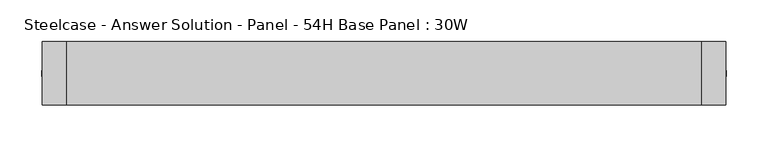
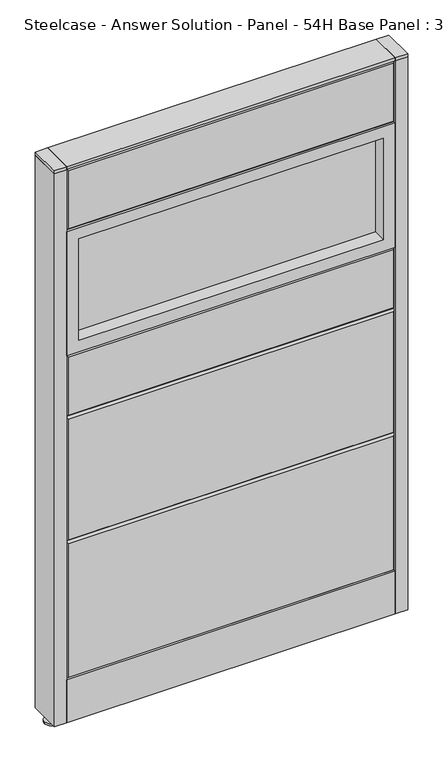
"""IFC4 building model written with IfcOpenShell, lengths in millimetres: furniture geometry, Steelcase - Answer Solution - Panel - 54H Base Panel : 30W."""

from ifc_helpers import new_model, si_unit, point, frame, frame_2d, origin, place, context, project, spatial, polyline, circle_curve, trimmed, segment, composite_curve, outline, extrude, faceted_brep, source, transform, mapped, element, save


def steelcase_answer_solution_panel_54h_base_panel_30w_146243de(model_context):
    return source(origin(), model_context, "Body", "SolidModel", [
        extrude(outline(composite_curve([segment(trimmed(circle_curve(frame_2d((395.224, 0.0320214)), 5.08), [point((400.304, 0.0320214))], [point((390.144, 0.0320214))], False, "CARTESIAN"), True, "CONTINUOUS"), segment(trimmed(circle_curve(frame_2d((395.224, 0.0320214)), 5.08), [point((390.144, 0.0320214))], [point((400.304, 0.0320214))], False, "CARTESIAN"), True, "CONTINUOUS")], self_intersect=False)), frame((0.0, 0.0, 5.0799671), z_axis=(0.0, 0.0, 1.0), x_axis=(1.0, 0.0, 0.0)), (0.0, 0.0, 1.0), 10.414),
        extrude(outline(composite_curve([segment(trimmed(circle_curve(frame_2d((395.224, 0.0320214)), 15.24), [point((410.464, 0.0320214))], [point((379.984, 0.0320214))], False, "CARTESIAN"), True, "CONTINUOUS"), segment(trimmed(circle_curve(frame_2d((395.224, 0.0320214)), 15.24), [point((379.984, 0.0320214))], [point((410.464, 0.0320214))], False, "CARTESIAN"), True, "CONTINUOUS")], self_intersect=False)), frame((0.0, 0.0, -3.29e-05), z_axis=(0.0, 0.0, 1.0), x_axis=(1.0, 0.0, 0.0)), (0.0, 0.0, 1.0), 5.08),
        extrude(outline(polyline([(409.575, 38.1320408), (409.575, -38.0679592), (381.0, -38.0679592), (381.0, 38.1320408), (409.575, 38.1320408)])), frame((0.0, 0.0, 1370.6348), z_axis=(0.0, 0.0, 1.0), x_axis=(1.0, 0.0, 0.0)), (0.0, 0.0, 1.0), 7.3151671),
        extrude(outline(polyline([(409.575, 38.1320408), (409.575, -38.0679592), (381.0, -38.0679592), (381.0, 38.1320408), (409.575, 38.1320408)])), frame((0.0, 0.0, 15.4939671), z_axis=(0.0, 0.0, 1.0), x_axis=(1.0, 0.0, 0.0)), (0.0, 0.0, 1.0), 1355.1408329),
        extrude(outline(composite_curve([segment(trimmed(circle_curve(frame_2d((-395.224, 0.0320214)), 5.08), [point((-400.304, 0.0320214))], [point((-390.144, 0.0320214))], False, "CARTESIAN"), True, "CONTINUOUS"), segment(trimmed(circle_curve(frame_2d((-395.224, 0.0320214)), 5.08), [point((-390.144, 0.0320214))], [point((-400.304, 0.0320214))], False, "CARTESIAN"), True, "CONTINUOUS")], self_intersect=False)), frame((0.0, 0.0, 5.0799671), z_axis=(0.0, 0.0, 1.0), x_axis=(1.0, 0.0, 0.0)), (0.0, 0.0, 1.0), 10.414),
        extrude(outline(composite_curve([segment(trimmed(circle_curve(frame_2d((-395.224, 0.0320214)), 15.24), [point((-410.464, 0.0320214))], [point((-379.984, 0.0320214))], False, "CARTESIAN"), True, "CONTINUOUS"), segment(trimmed(circle_curve(frame_2d((-395.224, 0.0320214)), 15.24), [point((-379.984, 0.0320214))], [point((-410.464, 0.0320214))], False, "CARTESIAN"), True, "CONTINUOUS")], self_intersect=False)), frame((0.0, 0.0, -3.29e-05), z_axis=(0.0, 0.0, 1.0), x_axis=(1.0, 0.0, 0.0)), (0.0, 0.0, 1.0), 5.08),
        extrude(outline(polyline([(-409.575, 38.1320408), (-381.0, 38.1320408), (-381.0, -38.0679592), (-409.575, -38.0679592), (-409.575, 38.1320408)])), frame((0.0, 0.0, 1370.6348), z_axis=(0.0, 0.0, 1.0), x_axis=(1.0, 0.0, 0.0)), (0.0, 0.0, 1.0), 7.3151671),
        extrude(outline(polyline([(-409.575, 38.1320408), (-381.0, 38.1320408), (-381.0, -38.0679592), (-409.575, -38.0679592), (-409.575, 38.1320408)])), frame((0.0, 0.0, 15.4939671), z_axis=(0.0, 0.0, 1.0), x_axis=(1.0, 0.0, 0.0)), (0.0, 0.0, 1.0), 1355.1408329),
        faceted_brep([(-376.174, 38.1635011, 1366.774), (376.174, 38.1635011, 1366.774), (376.174, 38.1635011, 1224.026), (-376.174, 38.1635011, 1224.026), (-381.0, 33.3375011, 1371.6), (-381.0, 33.3375011, 1219.2), (381.0, 33.3375011, 1219.2), (381.0, 33.3375011, 1371.6)], [[[0, 1, 2, 3]], [[4, 5, 6, 7]], [[4, 7, 1, 0]], [[7, 6, 2, 1]], [[6, 5, 3, 2]], [[5, 4, 0, 3]]]),
        extrude(outline(polyline([(-353.06, 6.346049), (353.06, 6.346049), (353.06, -6.353951), (-353.06, -6.353951), (-353.06, 6.346049)])), frame((0.0, 0.0, 942.34), z_axis=(0.0, 0.0, 1.0), x_axis=(1.0, 0.0, 0.0)), (0.0, 0.0, 1.0), 248.92),
        extrude(outline(polyline([(1219.2, -381.0), (914.4, -381.0), (914.4, 381.0), (1219.2, 381.0), (1219.2, -381.0)]), holes=[polyline([(1191.26, -353.06), (1191.26, 353.06), (942.34, 353.06), (942.34, -353.06), (1191.26, -353.06)])]), frame((0.0, -38.103951, 0.0), z_axis=(0.0, 1.0, 0.0), x_axis=(0.0, 0.0, 1.0)), (0.0, 0.0, 1.0), 76.2),
        faceted_brep([(-376.174, 38.1635011, 909.574), (376.174, 38.1635011, 909.574), (376.174, 38.1635011, 766.826), (-376.174, 38.1635011, 766.826), (-381.0, 33.3375011, 914.4), (-381.0, 33.3375011, 762.0), (381.0, 33.3375011, 762.0), (381.0, 33.3375011, 914.4)], [[[0, 1, 2, 3]], [[4, 5, 6, 7]], [[4, 7, 1, 0]], [[7, 6, 2, 1]], [[6, 5, 3, 2]], [[5, 4, 0, 3]]]),
        faceted_brep([(-376.174, 38.1635011, 757.174), (376.174, 38.1635011, 757.174), (376.174, 38.1635011, 462.026), (-376.174, 38.1635011, 462.026), (-381.0, 33.3375011, 762.0), (-381.0, 33.3375011, 457.2), (381.0, 33.3375011, 457.2), (381.0, 33.3375011, 762.0)], [[[0, 1, 2, 3]], [[4, 5, 6, 7]], [[4, 7, 1, 0]], [[7, 6, 2, 1]], [[6, 5, 3, 2]], [[5, 4, 0, 3]]]),
        faceted_brep([(-376.174, 38.1635011, 452.374), (376.174, 38.1635011, 452.374), (376.174, 38.1635011, 125.476), (-376.174, 38.1635011, 125.476), (-381.0, 33.3375011, 457.2), (-381.0, 33.3375011, 120.65), (381.0, 33.3375011, 120.65), (381.0, 33.3375011, 457.2)], [[[0, 1, 2, 3]], [[4, 5, 6, 7]], [[4, 7, 1, 0]], [[7, 6, 2, 1]], [[6, 5, 3, 2]], [[5, 4, 0, 3]]]),
        faceted_brep([(376.174, -38.1635011, 1366.774), (-376.174, -38.1635011, 1366.774), (-376.174, -38.1635011, 1224.026), (376.174, -38.1635011, 1224.026), (381.0, -33.3375011, 1371.6), (381.0, -33.3375011, 1219.2), (-381.0, -33.3375011, 1219.2), (-381.0, -33.3375011, 1371.6)], [[[0, 1, 2, 3]], [[4, 5, 6, 7]], [[4, 7, 1, 0]], [[7, 6, 2, 1]], [[6, 5, 3, 2]], [[5, 4, 0, 3]]]),
        extrude(outline(polyline([(353.06, -6.346049), (-353.06, -6.346049), (-353.06, 6.353951), (353.06, 6.353951), (353.06, -6.346049)])), frame((0.0, 0.0, 942.34), z_axis=(0.0, 0.0, 1.0), x_axis=(1.0, 0.0, 0.0)), (0.0, 0.0, 1.0), 248.92),
        extrude(outline(polyline([(1219.2, 381.0), (1219.2, -381.0), (914.4, -381.0), (914.4, 381.0), (1219.2, 381.0)]), holes=[polyline([(1191.26, 353.06), (942.34, 353.06), (942.34, -353.06), (1191.26, -353.06), (1191.26, 353.06)])]), frame((0.0, -38.096049, 0.0), z_axis=(0.0, 1.0, 0.0), x_axis=(0.0, 0.0, 1.0)), (0.0, 0.0, 1.0), 76.2),
        faceted_brep([(376.174, -38.1635011, 909.574), (-376.174, -38.1635011, 909.574), (-376.174, -38.1635011, 766.826), (376.174, -38.1635011, 766.826), (381.0, -33.3375011, 914.4), (381.0, -33.3375011, 762.0), (-381.0, -33.3375011, 762.0), (-381.0, -33.3375011, 914.4)], [[[0, 1, 2, 3]], [[4, 5, 6, 7]], [[4, 7, 1, 0]], [[7, 6, 2, 1]], [[6, 5, 3, 2]], [[5, 4, 0, 3]]]),
        faceted_brep([(376.174, -38.1635011, 757.174), (-376.174, -38.1635011, 757.174), (-376.174, -38.1635011, 462.026), (376.174, -38.1635011, 462.026), (381.0, -33.3375011, 762.0), (381.0, -33.3375011, 457.2), (-381.0, -33.3375011, 457.2), (-381.0, -33.3375011, 762.0)], [[[0, 1, 2, 3]], [[4, 5, 6, 7]], [[4, 7, 1, 0]], [[7, 6, 2, 1]], [[6, 5, 3, 2]], [[5, 4, 0, 3]]]),
        faceted_brep([(376.174, -38.1635011, 452.374), (-376.174, -38.1635011, 452.374), (-376.174, -38.1635011, 125.476), (376.174, -38.1635011, 125.476), (381.0, -33.3375011, 457.2), (381.0, -33.3375011, 120.65), (-381.0, -33.3375011, 120.65), (-381.0, -33.3375011, 457.2)], [[[0, 1, 2, 3]], [[4, 5, 6, 7]], [[4, 7, 1, 0]], [[7, 6, 2, 1]], [[6, 5, 3, 2]], [[5, 4, 0, 3]]]),
        extrude(outline(polyline([(381.0, 38.1000194), (381.0, -38.1000194), (-381.0, -38.1000194), (-381.0, 38.1000194), (381.0, 38.1000194)])), frame((0.0, 0.0, 1371.6), z_axis=(0.0, 0.0, 1.0), x_axis=(1.0, 0.0, 0.0)), (0.0, 0.0, 1.0), 6.35),
        extrude(outline(polyline([(25.4000011, 119.8575157), (25.4000011, 120.65), (38.1000194, 120.65), (38.1000194, 15.494), (37.3075215, 15.494), (37.3075215, 119.8575157), (25.4000011, 119.8575157)])), frame((-381.0, 0.0, 0.0), z_axis=(1.0, 0.0, 0.0), x_axis=(0.0, 1.0, 0.0)), (0.0, 0.0, 1.0), 762.0),
        extrude(outline(polyline([(-25.4000011, 119.8575157), (-37.3075215, 119.8575157), (-37.3075215, 15.494), (-38.1000194, 15.494), (-38.1000194, 120.65), (-25.4000011, 120.65), (-25.4000011, 119.8575157)])), frame((-381.0, 0.0, 0.0), z_axis=(1.0, 0.0, 0.0), x_axis=(0.0, 1.0, 0.0)), (0.0, 0.0, 1.0), 762.0),
    ])


if __name__ == "__main__":
    model = new_model("IFC4")
    model_context = context("Model", 3, world=origin())
    ifc_project = project(units=[si_unit("LENGTHUNIT", "METRE", prefix="MILLI")], contexts=[model_context])
    site = spatial("IfcSite", under=ifc_project)
    building = spatial("IfcBuilding", under=site)
    placement = place(None, origin())
    steelcase_answer_solution_panel_54h_base_panel_30w_shape = steelcase_answer_solution_panel_54h_base_panel_30w_146243de(model_context)
    element("IfcFurniture", 1, ObjectType="Steelcase - Answer Solution - Panel - 54H Base Panel : 30W", at=placement, inside=building, context=model_context, shape_type="MappedRepresentation", body=[
        mapped(steelcase_answer_solution_panel_54h_base_panel_30w_shape, transform((0.0, 0.0, 0.0), x_axis=(1.0, 0.0, 0.0), y_axis=(0.0, 1.0, 0.0), z_axis=(0.0, 0.0, 1.0))),
    ])
    save(model, "model.ifc")
